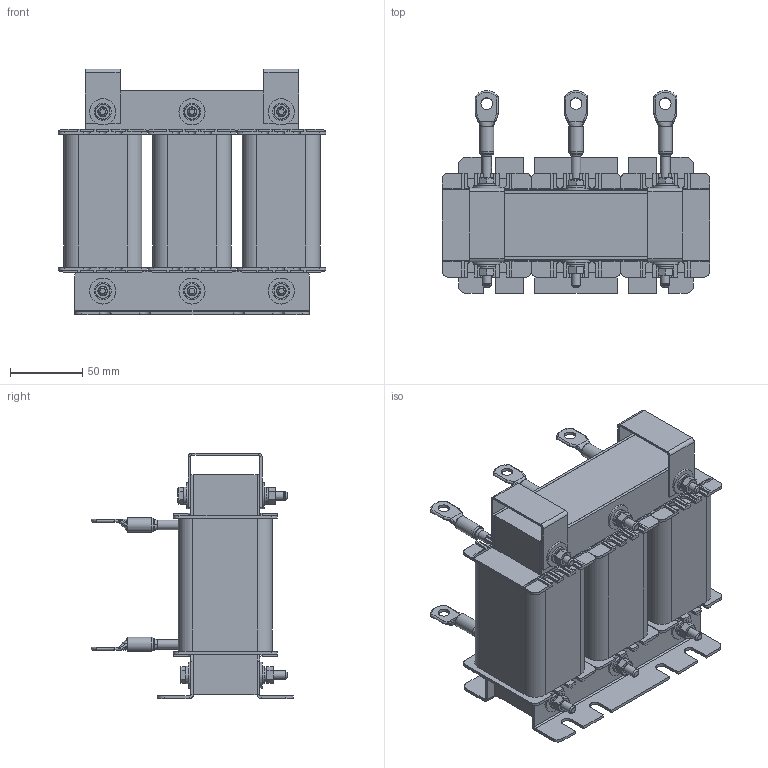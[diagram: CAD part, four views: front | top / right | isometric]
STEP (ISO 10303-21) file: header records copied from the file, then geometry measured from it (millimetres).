
FILE_DESCRIPTION(('STEP AP203'), '1');
FILE_NAME('Ñåòåâîé äðîññåëü _ ISF-30_62-4', '', ('UNSPECIFIED'), ('UNSPECIFIED'), 'C3D Converter', 'C3D Toolkit', '');
FILE_SCHEMA(('CONFIG_CONTROL_DESIGN'));
Length unit declared in the file: millimetre
Products named in the file (18): ISF-30_62-4; DIN 125 (A); ГОСТ 15591-70; DIN 127 (A); DIN 934
Assembly tree (69 placements, depth 3):
  ISF-30_62-4
    ISF-30_62-4
    ISF-30_62-4  x2
    ISF-30_62-4  x6
    ISF-30_62-4  x3
    ISF-30_62-4  x2
    (unnamed)  x12
      (unnamed)
    DIN 125 (A)  x12
      (unnamed)
    ГОСТ 15591-70  x6
      (unnamed)
    DIN 127 (A)  x6
      (unnamed)
    DIN 934  x6
      (unnamed)
    ISF-30_62-4  x2
    (unnamed)  x6
Bounding box: 185 x 139.97 x 170 mm (x, y, z)
Volume: 1447436.5 mm3; surface area: 364691.5 mm2
Topology: 71 solids, 71 shells, 1360 faces, 3342 edges, 2100 vertices
Faces by surface type: plane 884, cylinder 260, cone 102, bspline 84, torus 30
Full cylindrical faces by diameter (mm): 4.917 x6, 6 x37, 6.4 x24, 6.6 x9, 8 x12, 8.8 x6, 9.8 x6, 12 x12, 18 x12
Entity records: 14034 total; most frequent: CARTESIAN_POINT 4207, DIRECTION 1497, ORIENTED_EDGE 1398, EDGE_CURVE 699, AXIS2_PLACEMENT_3D 521, VERTEX_POINT 470, LINE 455, VECTOR 455
